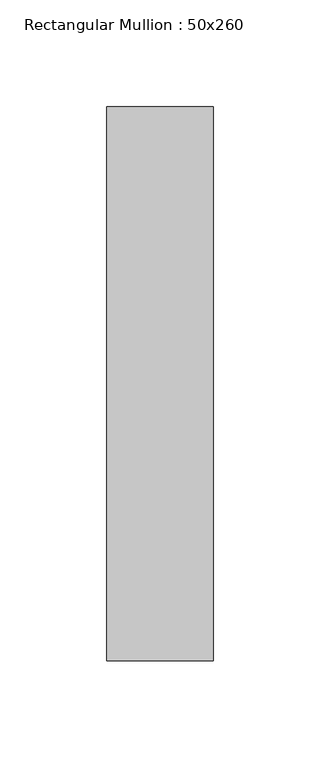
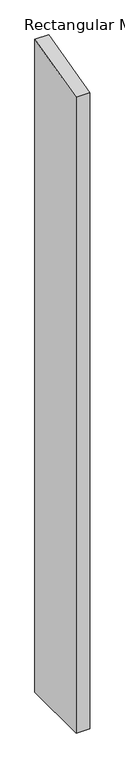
"""IFC4 building model written with IfcOpenShell, lengths in millimetres: member geometry, Rectangular Mullion : 50x260."""

from ifc_helpers import new_model, si_unit, frame, origin, place, context, project, spatial, polyline, outline, extrude, source, transform, mapped, element, save


def rectangular_mullion_50x260_a2ddf551(model_context):
    return source(origin(), model_context, "Body", "SweptSolid", [
        extrude(outline(polyline([(-130.0, -32.5863402), (130.0, 32.5863402), (130.0, -2479.7841735), (-130.0, -2479.7841735), (-130.0, -32.5863402)])), frame((-50.0, 0.0, 0.0), z_axis=(1.0, 0.0, 0.0), x_axis=(0.0, 1.0, 0.0)), (0.0, 0.0, 1.0), 50.0),
    ])


if __name__ == "__main__":
    model = new_model("IFC4")
    model_context = context("Model", 3, world=origin())
    ifc_project = project(units=[si_unit("LENGTHUNIT", "METRE", prefix="MILLI")], contexts=[model_context])
    site = spatial("IfcSite", under=ifc_project)
    building = spatial("IfcBuilding", under=site)
    placement = place(None, origin())
    rectangular_mullion_50x260_shape = rectangular_mullion_50x260_a2ddf551(model_context)
    element("IfcMember", 1, ObjectType="Rectangular Mullion : 50x260", at=placement, inside=building, context=model_context, shape_type="MappedRepresentation", body=[
        mapped(rectangular_mullion_50x260_shape, transform((0.0, 0.0, 0.0), x_axis=(1.0, 0.0, 0.0), y_axis=(0.0, 1.0, 0.0), z_axis=(0.0, 0.0, 1.0))),
    ])
    save(model, "model.ifc")
